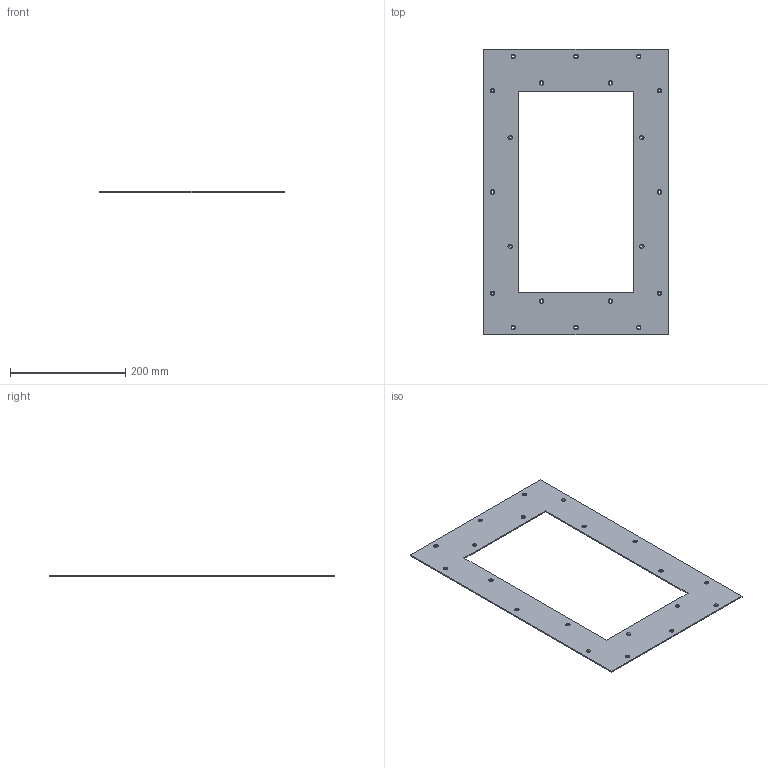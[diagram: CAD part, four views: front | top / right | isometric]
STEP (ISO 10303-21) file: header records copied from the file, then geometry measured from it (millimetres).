
FILE_DESCRIPTION(/* description */ (''),/* implementation_level */ '2;1');
FILE_NAME(/* name */ '/Volumes/MacData/Upwork_customers/Geoffrey Heinzel/CCM/Bracket/Bracket v1.step',/* time_stamp */ '2021-12-02T16:01:17+01:00',/* author */ (''),/* organization */ (''),/* preprocessor_version */ 'ST-DEVELOPER v18.1',/* originating_system */ 'Autodesk Translation Framework v10.10.0.1391',/* authorisation */ '');
FILE_SCHEMA (('AUTOMOTIVE_DESIGN { 1 0 10303 214 3 1 1 }'));
Length unit declared in the file: millimetre
Products named in the file (2): Bracket; Component1
Assembly tree (1 placements, depth 2):
  Bracket
    Component1
Bounding box: 320 x 495 x 2 mm (x, y, z)
Volume: 175775.1 mm3; surface area: 181999.4 mm2
Topology: 1 solids, 1 shells, 50 faces, 124 edges, 76 vertices
Faces by surface type: cone 20, cylinder 20, plane 10
Full cylindrical faces by diameter (mm): 4.5 x20
Entity records: 1625 total; most frequent: DIRECTION 290, CARTESIAN_POINT 253, ORIENTED_EDGE 248, EDGE_CURVE 124, AXIS2_PLACEMENT_3D 113, EDGE_LOOP 92, VERTEX_POINT 76, LINE 64
